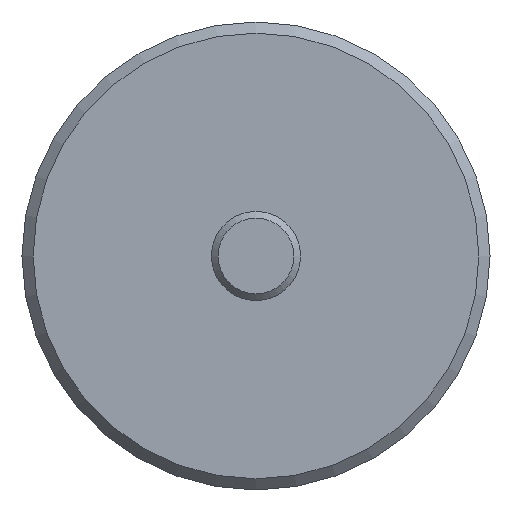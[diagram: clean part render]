
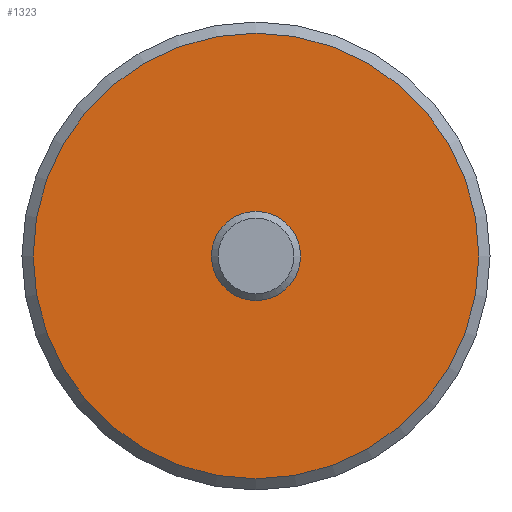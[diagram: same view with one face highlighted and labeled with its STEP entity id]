
A CAD part, left-side view. The second image highlights one B-rep face of the part: STEP entity #1323.
In plain terms, the highlighted planar face has unit normal (-1, 0, 0).
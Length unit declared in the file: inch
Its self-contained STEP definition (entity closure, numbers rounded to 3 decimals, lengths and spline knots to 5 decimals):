
#182=FACE_BOUND('',#301,.T.);
#218=FACE_OUTER_BOUND('',#300,.T.);
#300=EDGE_LOOP('',(#911));
#301=EDGE_LOOP('',(#912,#913));
#404=CIRCLE('',#1450,0.14764);
#405=CIRCLE('',#1451,0.14764);
#408=CIRCLE('',#1456,0.7874);
#529=VERTEX_POINT('',#2144);
#530=VERTEX_POINT('',#2145);
#533=VERTEX_POINT('',#2156);
#671=EDGE_CURVE('',#529,#530,#404,.T.);
#672=EDGE_CURVE('',#530,#529,#405,.T.);
#678=EDGE_CURVE('',#533,#533,#408,.T.);
#911=ORIENTED_EDGE('',*,*,#678,.F.);
#912=ORIENTED_EDGE('',*,*,#671,.T.);
#913=ORIENTED_EDGE('',*,*,#672,.T.);
#1199=PLANE('',#1460);
#1323=ADVANCED_FACE('',(#218,#182),#1199,.F.);
#1450=AXIS2_PLACEMENT_3D('',#2146,#1706,#1707);
#1451=AXIS2_PLACEMENT_3D('',#2147,#1708,#1709);
#1456=AXIS2_PLACEMENT_3D('',#2158,#1721,#1722);
#1460=AXIS2_PLACEMENT_3D('',#2165,#1730,#1731);
#1706=DIRECTION('center_axis',(1.,0.,0.));
#1707=DIRECTION('ref_axis',(0.,-1.,0.));
#1708=DIRECTION('center_axis',(1.,0.,0.));
#1709=DIRECTION('ref_axis',(0.,-1.,0.));
#1721=DIRECTION('center_axis',(1.,0.,0.));
#1722=DIRECTION('ref_axis',(0.,-1.,0.));
#1730=DIRECTION('center_axis',(1.,0.,0.));
#1731=DIRECTION('ref_axis',(0.,0.,1.));
#2144=CARTESIAN_POINT('',(-1.99853,0.13777,0.20053));
#2145=CARTESIAN_POINT('',(-1.99853,0.43304,0.20053));
#2146=CARTESIAN_POINT('Origin',(-1.99853,0.28541,0.20053));
#2147=CARTESIAN_POINT('Origin',(-1.99853,0.28541,0.20053));
#2156=CARTESIAN_POINT('',(-1.99853,1.07281,0.20053));
#2158=CARTESIAN_POINT('Origin',(-1.99853,0.28541,0.20053));
#2165=CARTESIAN_POINT('Origin',(-1.99853,0.28541,0.20053));
